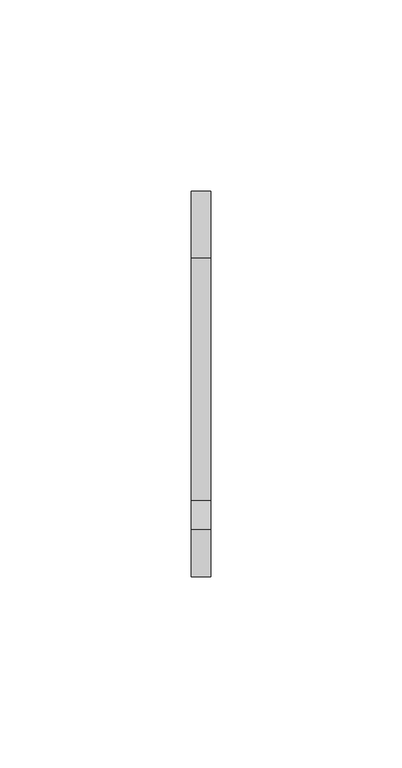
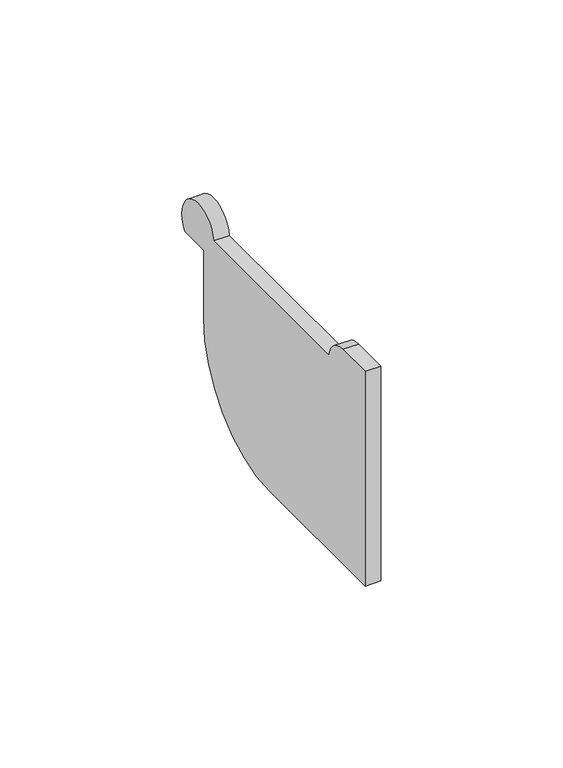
"""IFC4 building model written with IfcOpenShell, lengths in millimetres: proxy geometry, Odbojnik przyścienny rynny : Odbojnik przyścienny rynny."""

from ifc_helpers import new_model, si_unit, point, frame, frame_2d, origin, place, context, project, spatial, polyline, circle_curve, trimmed, segment, composite_curve, outline, extrude, source, transform, mapped, element, save


def generic_models_23ee7866(model_context):
    return source(origin(), model_context, "Body", "SweptSolid", [
        extrude(outline(composite_curve([segment(polyline([(-45.6832496, 56.219391), (-33.4782679, 56.219391)]), True, "CONTINUOUS"), segment(trimmed(circle_curve(frame_2d((-33.4782679, 48.519391)), 7.7), [point((-33.4782679, 56.219391))], [point((-25.8434791, 49.519391))], False, "CARTESIAN"), True, "CONTINUOUS"), segment(polyline([(-25.8434791, 49.519391), (37.49331, 49.519391)]), True, "CONTINUOUS"), segment(trimmed(circle_curve(frame_2d((46.1613736, 48.219391)), 8.7650058), [point((37.49331, 49.519391))], [point((53.3076805, 43.144391))], False, "CARTESIAN"), True, "CONTINUOUS"), segment(polyline([(53.3076805, 43.144391), (43.001731, 43.144391), (43.001731, 20.219391)]), True, "CONTINUOUS"), segment(trimmed(circle_curve(frame_2d((7.001731, 20.219391)), 36.0), [point((43.001731, 20.219391))], [point((7.001731, -15.780609))], False, "CARTESIAN"), True, "CONTINUOUS"), segment(polyline([(7.001731, -15.780609), (-45.6832496, -15.780609), (-45.6832496, 56.219391)]), True, "CONTINUOUS")], self_intersect=False)), frame((-2.5, 0.0, 0.0), z_axis=(1.0, 0.0, 0.0), x_axis=(0.0, 1.0, 0.0)), (0.0, 0.0, 1.0), 5.0),
    ])


if __name__ == "__main__":
    model = new_model("IFC4")
    model_context = context("Model", 3, world=origin())
    ifc_project = project(units=[si_unit("LENGTHUNIT", "METRE", prefix="MILLI")], contexts=[model_context])
    site = spatial("IfcSite", under=ifc_project)
    building = spatial("IfcBuilding", under=site)
    placement = place(None, origin())
    generic_models_shape = generic_models_23ee7866(model_context)
    element("IfcBuildingElementProxy", 1, Name="Odbojnik przyścienny rynny : Odbojnik przyścienny rynny", ObjectType="Odbojnik przyścienny rynny : Odbojnik przyścienny rynny", at=placement, inside=building, context=model_context, shape_type="MappedRepresentation", body=[
        mapped(generic_models_shape, transform((0.0, 0.0, 0.0), x_axis=(1.0, 0.0, 0.0), y_axis=(0.0, 1.0, 0.0), z_axis=(0.0, 0.0, 1.0))),
    ])
    save(model, "model.ifc")
